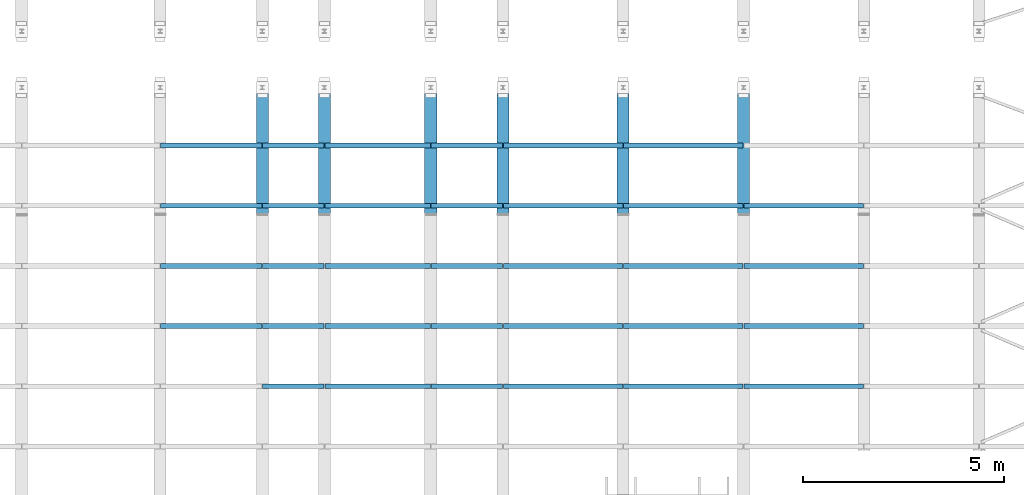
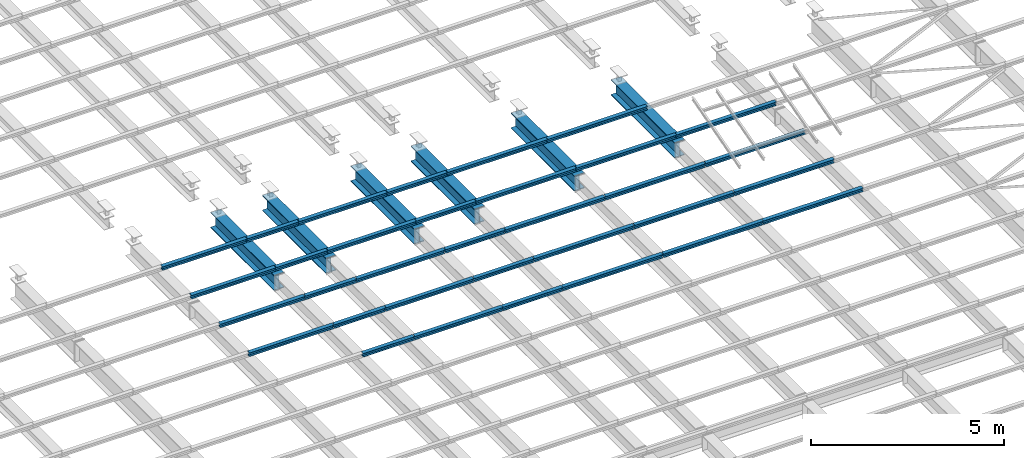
# One storey, part 52 of 139: 39 beams.
"""IFC2X3 building model written with IfcOpenShell, lengths in metres."""

from ifc_helpers import new_model, entity, si_unit, converted_unit, derived_unit, frame, origin, place, context, subcontext, project, spatial, polyline, outline, extrude, material, element, save


model = new_model("IFC2X3")

# Units and contexts
model_context = context("Model", 3, precision=1e-05, world=origin())
body_context = subcontext(model_context, "Body", "Model", "MODEL_VIEW")
ifc_project = project(units=[si_unit("LENGTHUNIT", "METRE"), si_unit("AREAUNIT", "SQUARE_METRE"), si_unit("VOLUMEUNIT", "CUBIC_METRE"), si_unit("MASSUNIT", "GRAM", prefix="KILO"), converted_unit("PLANEANGLEUNIT", "DEGREE", entity("IfcPlaneAngleMeasure", 0.0174532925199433), si_unit("PLANEANGLEUNIT", "RADIAN"), dimensions=[0, 0, 0, 0, 0, 0, 0]), derived_unit("THERMALTRANSMITTANCEUNIT", [(si_unit("POWERUNIT", "WATT"), 1), (si_unit("THERMODYNAMICTEMPERATUREUNIT", "KELVIN"), -1), (si_unit("LENGTHUNIT", "METRE"), -2)]), derived_unit("VOLUMETRICFLOWRATEUNIT", [(si_unit("LENGTHUNIT", "METRE"), 3), (converted_unit("TIMEUNIT", "hour", entity("IfcTimeMeasure", 3600.0), si_unit("TIMEUNIT", "SECOND"), dimensions=[0, 0, 1, 0, 0, 0, 0]), -1), (si_unit("LENGTHUNIT", "METRE"), -1)])], contexts=[model_context])

# Site, building, storey
site_placement = place(None, origin())
site = spatial("IfcSite", under=ifc_project, at=site_placement, Name="TWP_Speiseverteilzentrum SBW VZ II", CompositionType="ELEMENT")
building_placement = place(site_placement, origin())
building = spatial("IfcBuilding", under=site, at=building_placement, Name="Speiseverteilzentrum SBW VZ II", CompositionType="ELEMENT")
storey_placement = place(building_placement, frame((0.0, 0.0, 7.1307)))
storey = spatial("IfcBuildingStorey", under=building, at=storey_placement, Name="Wartung_FFB", CompositionType="ELEMENT", Elevation=7.1307)

# Beams
ifc_material_1 = material(Name="S235")
beam_1_placement = place(storey_placement, frame((28.0500000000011, 51.0500000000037, -0.435), z_axis=(0.0, 0.0, 1.0), x_axis=(-1.0, 0.0, 0.0)))
element("IfcBeam", 1, at=beam_1_placement, inside=storey, material=ifc_material_1, Name="Stahlträger", context=body_context, shape_type="SweptSolid", body=[
    extrude(outline(polyline([(-0.15, 0.245), (-0.15, 0.222), (-0.00599999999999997, 0.222), (-0.006, -0.222), (-0.15, -0.222), (-0.15, -0.245), (0.15, -0.245), (0.15, -0.222), (0.00600000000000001, -0.222), (0.00600000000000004, 0.222), (0.15, 0.222), (0.15, 0.245), (-0.15, 0.245)])), frame((0.0, 0.0, 0.0), z_axis=(0.0, 1.0, 0.0), x_axis=(-1.0, 0.0, 0.0)), (0.0, 0.0, 1.0), 3.29299999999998),
])
ifc_material_2 = material(Name="S235")
beam_2_placement = place(storey_placement, frame((34.0500000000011, 51.0500000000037, -0.435), z_axis=(0.0, 0.0, 1.0), x_axis=(-1.0, 0.0, 0.0)))
element("IfcBeam", 2, at=beam_2_placement, inside=storey, material=ifc_material_2, Name="Stahlträger", context=body_context, shape_type="SweptSolid", body=[
    extrude(outline(polyline([(-0.15, 0.245), (-0.15, 0.222), (-0.00599999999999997, 0.222), (-0.006, -0.222), (-0.15, -0.222), (-0.15, -0.245), (0.15, -0.245), (0.15, -0.222), (0.00600000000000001, -0.222), (0.00600000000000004, 0.222), (0.15, 0.222), (0.15, 0.245), (-0.15, 0.245)])), frame((0.0, 0.0, 0.0), z_axis=(0.0, 1.0, 0.0), x_axis=(-1.0, 0.0, 0.0)), (0.0, 0.0, 1.0), 3.29299999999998),
])
ifc_material_3 = material(Name="S235")
beam_3_placement = place(storey_placement, frame((37.0500000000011, 51.0500000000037, -0.435), z_axis=(0.0, 0.0, 1.0), x_axis=(-1.0, 0.0, 0.0)))
element("IfcBeam", 3, at=beam_3_placement, inside=storey, material=ifc_material_3, Name="Stahlträger", context=body_context, shape_type="SweptSolid", body=[
    extrude(outline(polyline([(-0.15, 0.245), (-0.15, 0.222), (-0.00599999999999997, 0.222), (-0.006, -0.222), (-0.15, -0.222), (-0.15, -0.245), (0.15, -0.245), (0.15, -0.222), (0.00600000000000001, -0.222), (0.00600000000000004, 0.222), (0.15, 0.222), (0.15, 0.245), (-0.15, 0.245)])), frame((0.0, 0.0, 0.0), z_axis=(0.0, 1.0, 0.0), x_axis=(-1.0, 0.0, 0.0)), (0.0, 0.0, 1.0), 3.29299999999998),
])
ifc_material_4 = material(Name="S235")
beam_4_placement = place(storey_placement, frame((40.0500000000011, 51.0500000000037, -0.435), z_axis=(0.0, 0.0, 1.0), x_axis=(-1.0, 0.0, 0.0)))
element("IfcBeam", 4, at=beam_4_placement, inside=storey, material=ifc_material_4, Name="Stahlträger", context=body_context, shape_type="SweptSolid", body=[
    extrude(outline(polyline([(-0.15, 0.245), (-0.15, 0.222), (-0.00599999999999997, 0.222), (-0.006, -0.222), (-0.15, -0.222), (-0.15, -0.245), (0.15, -0.245), (0.15, -0.222), (0.00600000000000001, -0.222), (0.00600000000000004, 0.222), (0.15, 0.222), (0.15, 0.245), (-0.15, 0.245)])), frame((0.0, 0.0, 0.0), z_axis=(0.0, 1.0, 0.0), x_axis=(-1.0, 0.0, 0.0)), (0.0, 0.0, 1.0), 3.29299999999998),
])
ifc_material_5 = material(Name="S235")
beam_5_placement = place(storey_placement, frame((32.2500000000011, 51.0500000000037, -0.435), z_axis=(0.0, 0.0, 1.0), x_axis=(-1.0, 0.0, 0.0)))
element("IfcBeam", 5, at=beam_5_placement, inside=storey, material=ifc_material_5, Name="Stahlträger", context=body_context, shape_type="SweptSolid", body=[
    extrude(outline(polyline([(-0.15, 0.245), (-0.15, 0.222), (-0.00599999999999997, 0.222), (-0.006, -0.222), (-0.15, -0.222), (-0.15, -0.245), (0.15, -0.245), (0.15, -0.222), (0.00600000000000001, -0.222), (0.00600000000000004, 0.222), (0.15, 0.222), (0.15, 0.245), (-0.15, 0.245)])), frame((0.0, 0.0, 0.0), z_axis=(0.0, 1.0, 0.0), x_axis=(-1.0, 0.0, 0.0)), (0.0, 0.0, 1.0), 3.29299999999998),
])
ifc_material_6 = material(Name="S235")
beam_6_placement = place(storey_placement, frame((29.6000000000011, 51.0500000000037, -0.435), z_axis=(0.0, 0.0, 1.0), x_axis=(-1.0, 0.0, 0.0)))
element("IfcBeam", 6, at=beam_6_placement, inside=storey, material=ifc_material_6, Name="Stahlträger", context=body_context, shape_type="SweptSolid", body=[
    extrude(outline(polyline([(-0.15, 0.245), (-0.15, 0.222), (-0.00599999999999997, 0.222), (-0.006, -0.222), (-0.15, -0.222), (-0.15, -0.245), (0.15, -0.245), (0.15, -0.222), (0.00600000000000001, -0.222), (0.00600000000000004, 0.222), (0.15, 0.222), (0.15, 0.245), (-0.15, 0.245)])), frame((0.0, 0.0, 0.0), z_axis=(0.0, 1.0, 0.0), x_axis=(-1.0, 0.0, 0.0)), (0.0, 0.0, 1.0), 3.29299999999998),
])
ifc_material_7 = material(Name="S235")
beam_7_placement = place(storey_placement, frame((34.0600000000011, 49.4500000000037, -0.133), z_axis=(0.0, 0.0, 1.0), x_axis=(0.0, -1.0, 0.0)))
element("IfcBeam", 7, at=beam_7_placement, inside=storey, material=ifc_material_7, Name="Nebenträger", context=body_context, shape_type="SweptSolid", body=[
    extrude(outline(polyline([(-0.06, 0.0570000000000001), (-0.06, 0.0490000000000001), (-0.00249999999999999, 0.0490000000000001), (-0.0025, -0.0489999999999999), (-0.06, -0.0489999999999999), (-0.06, -0.0569999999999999), (0.06, -0.0569999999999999), (0.06, -0.0489999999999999), (0.0025, -0.0489999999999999), (0.00250000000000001, 0.0490000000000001), (0.06, 0.0490000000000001), (0.06, 0.0570000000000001), (-0.06, 0.0570000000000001)])), frame((0.0, 0.0, 0.0), z_axis=(0.0, 1.0, 0.0), x_axis=(-1.0, 0.0, 0.0)), (0.0, 0.0, 1.0), 2.98),
])
ifc_material_8 = material(Name="S235")
beam_8_placement = place(storey_placement, frame((37.0600000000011, 49.4500000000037, -0.133), z_axis=(0.0, 0.0, 1.0), x_axis=(0.0, -1.0, 0.0)))
element("IfcBeam", 8, at=beam_8_placement, inside=storey, material=ifc_material_8, Name="Nebenträger", context=body_context, shape_type="SweptSolid", body=[
    extrude(outline(polyline([(-0.06, 0.0570000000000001), (-0.06, 0.0490000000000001), (-0.00249999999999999, 0.0490000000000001), (-0.0025, -0.0489999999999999), (-0.06, -0.0489999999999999), (-0.06, -0.0569999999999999), (0.06, -0.0569999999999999), (0.06, -0.0489999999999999), (0.0025, -0.0489999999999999), (0.00250000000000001, 0.0490000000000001), (0.06, 0.0490000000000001), (0.06, 0.0570000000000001), (-0.06, 0.0570000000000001)])), frame((0.0, 0.0, 0.0), z_axis=(0.0, 1.0, 0.0), x_axis=(-1.0, 0.0, 0.0)), (0.0, 0.0, 1.0), 2.98),
])
ifc_material_9 = material(Name="S235")
beam_9_placement = place(storey_placement, frame((34.0600000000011, 47.9500000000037, -0.133), z_axis=(0.0, 0.0, 1.0), x_axis=(0.0, -1.0, 0.0)))
element("IfcBeam", 9, at=beam_9_placement, inside=storey, material=ifc_material_9, Name="Nebenträger", context=body_context, shape_type="SweptSolid", body=[
    extrude(outline(polyline([(-0.06, 0.0570000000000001), (-0.06, 0.0490000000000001), (-0.00249999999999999, 0.0490000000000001), (-0.0025, -0.0489999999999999), (-0.06, -0.0489999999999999), (-0.06, -0.0569999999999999), (0.06, -0.0569999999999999), (0.06, -0.0489999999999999), (0.0025, -0.0489999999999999), (0.00250000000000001, 0.0490000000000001), (0.06, 0.0490000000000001), (0.06, 0.0570000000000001), (-0.06, 0.0570000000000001)])), frame((0.0, 0.0, 0.0), z_axis=(0.0, 1.0, 0.0), x_axis=(-1.0, 0.0, 0.0)), (0.0, 0.0, 1.0), 2.98),
])
ifc_material_10 = material(Name="S235")
beam_10_placement = place(storey_placement, frame((37.0600000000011, 47.9500000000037, -0.133), z_axis=(0.0, 0.0, 1.0), x_axis=(0.0, -1.0, 0.0)))
element("IfcBeam", 10, at=beam_10_placement, inside=storey, material=ifc_material_10, Name="Nebenträger", context=body_context, shape_type="SweptSolid", body=[
    extrude(outline(polyline([(-0.06, 0.0570000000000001), (-0.06, 0.0490000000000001), (-0.00249999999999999, 0.0490000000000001), (-0.0025, -0.0489999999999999), (-0.06, -0.0489999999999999), (-0.06, -0.0569999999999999), (0.06, -0.0569999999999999), (0.06, -0.0489999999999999), (0.0025, -0.0489999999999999), (0.00250000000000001, 0.0490000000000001), (0.06, 0.0490000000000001), (0.06, 0.0570000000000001), (-0.06, 0.0570000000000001)])), frame((0.0, 0.0, 0.0), z_axis=(0.0, 1.0, 0.0), x_axis=(-1.0, 0.0, 0.0)), (0.0, 0.0, 1.0), 2.98),
])
ifc_material_11 = material(Name="S235")
beam_11_placement = place(storey_placement, frame((40.0600000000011, 47.9500000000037, -0.133), z_axis=(0.0, 0.0, 1.0), x_axis=(0.0, -1.0, 0.0)))
element("IfcBeam", 11, at=beam_11_placement, inside=storey, material=ifc_material_11, Name="Nebenträger", context=body_context, shape_type="SweptSolid", body=[
    extrude(outline(polyline([(-0.06, 0.0570000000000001), (-0.06, 0.0490000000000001), (-0.00249999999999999, 0.0490000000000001), (-0.0025, -0.0489999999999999), (-0.06, -0.0489999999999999), (-0.06, -0.0569999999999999), (0.06, -0.0569999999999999), (0.06, -0.0489999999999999), (0.0025, -0.0489999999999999), (0.00250000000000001, 0.0490000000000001), (0.06, 0.0490000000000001), (0.06, 0.0570000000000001), (-0.06, 0.0570000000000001)])), frame((0.0, 0.0, 0.0), z_axis=(0.0, 1.0, 0.0), x_axis=(-1.0, 0.0, 0.0)), (0.0, 0.0, 1.0), 2.98),
])
ifc_material_12 = material(Name="S235")
beam_12_placement = place(storey_placement, frame((34.0600000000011, 46.4500000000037, -0.133), z_axis=(0.0, 0.0, 1.0), x_axis=(0.0, -1.0, 0.0)))
element("IfcBeam", 12, at=beam_12_placement, inside=storey, material=ifc_material_12, Name="Nebenträger", context=body_context, shape_type="SweptSolid", body=[
    extrude(outline(polyline([(-0.06, 0.0570000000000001), (-0.06, 0.0490000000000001), (-0.00249999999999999, 0.0490000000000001), (-0.0025, -0.0489999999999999), (-0.06, -0.0489999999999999), (-0.06, -0.0569999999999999), (0.06, -0.0569999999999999), (0.06, -0.0489999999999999), (0.0025, -0.0489999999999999), (0.00250000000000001, 0.0490000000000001), (0.06, 0.0490000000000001), (0.06, 0.0570000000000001), (-0.06, 0.0570000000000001)])), frame((0.0, 0.0, 0.0), z_axis=(0.0, 1.0, 0.0), x_axis=(-1.0, 0.0, 0.0)), (0.0, 0.0, 1.0), 2.98),
])
ifc_material_13 = material(Name="S235")
beam_13_placement = place(storey_placement, frame((37.0600000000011, 46.4500000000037, -0.133), z_axis=(0.0, 0.0, 1.0), x_axis=(0.0, -1.0, 0.0)))
element("IfcBeam", 13, at=beam_13_placement, inside=storey, material=ifc_material_13, Name="Nebenträger", context=body_context, shape_type="SweptSolid", body=[
    extrude(outline(polyline([(-0.06, 0.0570000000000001), (-0.06, 0.0490000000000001), (-0.00249999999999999, 0.0490000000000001), (-0.0025, -0.0489999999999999), (-0.06, -0.0489999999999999), (-0.06, -0.0569999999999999), (0.06, -0.0569999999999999), (0.06, -0.0489999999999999), (0.0025, -0.0489999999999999), (0.00250000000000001, 0.0490000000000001), (0.06, 0.0490000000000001), (0.06, 0.0570000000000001), (-0.06, 0.0570000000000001)])), frame((0.0, 0.0, 0.0), z_axis=(0.0, 1.0, 0.0), x_axis=(-1.0, 0.0, 0.0)), (0.0, 0.0, 1.0), 2.98),
])
ifc_material_14 = material(Name="S235")
beam_14_placement = place(storey_placement, frame((40.0600000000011, 46.4500000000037, -0.133), z_axis=(0.0, 0.0, 1.0), x_axis=(0.0, -1.0, 0.0)))
element("IfcBeam", 14, at=beam_14_placement, inside=storey, material=ifc_material_14, Name="Nebenträger", context=body_context, shape_type="SweptSolid", body=[
    extrude(outline(polyline([(-0.06, 0.0570000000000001), (-0.06, 0.0490000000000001), (-0.00249999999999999, 0.0490000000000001), (-0.0025, -0.0489999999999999), (-0.06, -0.0489999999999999), (-0.06, -0.0569999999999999), (0.06, -0.0569999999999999), (0.06, -0.0489999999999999), (0.0025, -0.0489999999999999), (0.00250000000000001, 0.0490000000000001), (0.06, 0.0490000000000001), (0.06, 0.0570000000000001), (-0.06, 0.0570000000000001)])), frame((0.0, 0.0, 0.0), z_axis=(0.0, 1.0, 0.0), x_axis=(-1.0, 0.0, 0.0)), (0.0, 0.0, 1.0), 2.98),
])
ifc_material_15 = material(Name="S235")
beam_15_placement = place(storey_placement, frame((34.0600000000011, 44.9500000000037, -0.133), z_axis=(0.0, 0.0, 1.0), x_axis=(0.0, -1.0, 0.0)))
element("IfcBeam", 15, at=beam_15_placement, inside=storey, material=ifc_material_15, Name="Nebenträger", context=body_context, shape_type="SweptSolid", body=[
    extrude(outline(polyline([(-0.06, 0.0570000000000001), (-0.06, 0.0490000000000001), (-0.00249999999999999, 0.0490000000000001), (-0.0025, -0.0489999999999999), (-0.06, -0.0489999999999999), (-0.06, -0.0569999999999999), (0.06, -0.0569999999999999), (0.06, -0.0489999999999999), (0.0025, -0.0489999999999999), (0.00250000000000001, 0.0490000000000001), (0.06, 0.0490000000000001), (0.06, 0.0570000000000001), (-0.06, 0.0570000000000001)])), frame((0.0, 0.0, 0.0), z_axis=(0.0, 1.0, 0.0), x_axis=(-1.0, 0.0, 0.0)), (0.0, 0.0, 1.0), 2.98),
])
ifc_material_16 = material(Name="S235")
beam_16_placement = place(storey_placement, frame((37.0600000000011, 44.9500000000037, -0.133), z_axis=(0.0, 0.0, 1.0), x_axis=(0.0, -1.0, 0.0)))
element("IfcBeam", 16, at=beam_16_placement, inside=storey, material=ifc_material_16, Name="Nebenträger", context=body_context, shape_type="SweptSolid", body=[
    extrude(outline(polyline([(-0.06, 0.0570000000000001), (-0.06, 0.0490000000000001), (-0.00249999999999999, 0.0490000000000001), (-0.0025, -0.0489999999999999), (-0.06, -0.0489999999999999), (-0.06, -0.0569999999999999), (0.06, -0.0569999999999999), (0.06, -0.0489999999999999), (0.0025, -0.0489999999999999), (0.00250000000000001, 0.0490000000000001), (0.06, 0.0490000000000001), (0.06, 0.0570000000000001), (-0.06, 0.0570000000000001)])), frame((0.0, 0.0, 0.0), z_axis=(0.0, 1.0, 0.0), x_axis=(-1.0, 0.0, 0.0)), (0.0, 0.0, 1.0), 2.98),
])
ifc_material_17 = material(Name="S235")
beam_17_placement = place(storey_placement, frame((40.0600000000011, 44.9500000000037, -0.133), z_axis=(0.0, 0.0, 1.0), x_axis=(0.0, -1.0, 0.0)))
element("IfcBeam", 17, at=beam_17_placement, inside=storey, material=ifc_material_17, Name="Nebenträger", context=body_context, shape_type="SweptSolid", body=[
    extrude(outline(polyline([(-0.06, 0.0570000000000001), (-0.06, 0.0490000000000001), (-0.00249999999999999, 0.0490000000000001), (-0.0025, -0.0489999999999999), (-0.06, -0.0489999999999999), (-0.06, -0.0569999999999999), (0.06, -0.0569999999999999), (0.06, -0.0489999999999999), (0.0025, -0.0489999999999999), (0.00250000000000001, 0.0490000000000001), (0.06, 0.0490000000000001), (0.06, 0.0570000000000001), (-0.06, 0.0570000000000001)])), frame((0.0, 0.0, 0.0), z_axis=(0.0, 1.0, 0.0), x_axis=(-1.0, 0.0, 0.0)), (0.0, 0.0, 1.0), 2.98),
])
ifc_material_18 = material(Name="S235")
beam_18_placement = place(storey_placement, frame((34.0600000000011, 43.4500000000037, -0.133), z_axis=(0.0, 0.0, 1.0), x_axis=(0.0, -1.0, 0.0)))
element("IfcBeam", 18, at=beam_18_placement, inside=storey, material=ifc_material_18, Name="Nebenträger", context=body_context, shape_type="SweptSolid", body=[
    extrude(outline(polyline([(-0.06, 0.0570000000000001), (-0.06, 0.0490000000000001), (-0.00249999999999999, 0.0490000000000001), (-0.0025, -0.0489999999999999), (-0.06, -0.0489999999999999), (-0.06, -0.0569999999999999), (0.06, -0.0569999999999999), (0.06, -0.0489999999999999), (0.0025, -0.0489999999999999), (0.00250000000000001, 0.0490000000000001), (0.06, 0.0490000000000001), (0.06, 0.0570000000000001), (-0.06, 0.0570000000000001)])), frame((0.0, 0.0, 0.0), z_axis=(0.0, 1.0, 0.0), x_axis=(-1.0, 0.0, 0.0)), (0.0, 0.0, 1.0), 2.98),
])
ifc_material_19 = material(Name="S235")
beam_19_placement = place(storey_placement, frame((37.0600000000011, 43.4500000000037, -0.133), z_axis=(0.0, 0.0, 1.0), x_axis=(0.0, -1.0, 0.0)))
element("IfcBeam", 19, at=beam_19_placement, inside=storey, material=ifc_material_19, Name="Nebenträger", context=body_context, shape_type="SweptSolid", body=[
    extrude(outline(polyline([(-0.06, 0.0570000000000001), (-0.06, 0.0490000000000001), (-0.00249999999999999, 0.0490000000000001), (-0.0025, -0.0489999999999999), (-0.06, -0.0489999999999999), (-0.06, -0.0569999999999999), (0.06, -0.0569999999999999), (0.06, -0.0489999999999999), (0.0025, -0.0489999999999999), (0.00250000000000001, 0.0490000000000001), (0.06, 0.0490000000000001), (0.06, 0.0570000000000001), (-0.06, 0.0570000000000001)])), frame((0.0, 0.0, 0.0), z_axis=(0.0, 1.0, 0.0), x_axis=(-1.0, 0.0, 0.0)), (0.0, 0.0, 1.0), 2.98),
])
ifc_material_20 = material(Name="S235")
beam_20_placement = place(storey_placement, frame((40.0600000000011, 43.4500000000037, -0.133), z_axis=(0.0, 0.0, 1.0), x_axis=(0.0, -1.0, 0.0)))
element("IfcBeam", 20, at=beam_20_placement, inside=storey, material=ifc_material_20, Name="Nebenträger", context=body_context, shape_type="SweptSolid", body=[
    extrude(outline(polyline([(-0.06, 0.0570000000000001), (-0.06, 0.0490000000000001), (-0.00249999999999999, 0.0490000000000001), (-0.0025, -0.0489999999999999), (-0.06, -0.0489999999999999), (-0.06, -0.0569999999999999), (0.06, -0.0569999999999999), (0.06, -0.0489999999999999), (0.0025, -0.0489999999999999), (0.00250000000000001, 0.0490000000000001), (0.06, 0.0490000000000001), (0.06, 0.0570000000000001), (-0.06, 0.0570000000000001)])), frame((0.0, 0.0, 0.0), z_axis=(0.0, 1.0, 0.0), x_axis=(-1.0, 0.0, 0.0)), (0.0, 0.0, 1.0), 2.98),
])
ifc_material_21 = material(Name="S235")
beam_21_placement = place(storey_placement, frame((32.2600000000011, 49.4500000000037, -0.133), z_axis=(0.0, 0.0, 1.0), x_axis=(0.0, -1.0, 0.0)))
element("IfcBeam", 21, at=beam_21_placement, inside=storey, material=ifc_material_21, Name="Nebenträger", context=body_context, shape_type="SweptSolid", body=[
    extrude(outline(polyline([(-0.06, 0.0570000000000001), (-0.06, 0.0490000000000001), (-0.00249999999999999, 0.0490000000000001), (-0.0025, -0.0489999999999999), (-0.06, -0.0489999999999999), (-0.06, -0.0569999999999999), (0.06, -0.0569999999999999), (0.06, -0.0489999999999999), (0.0025, -0.0489999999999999), (0.00250000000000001, 0.0490000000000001), (0.06, 0.0490000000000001), (0.06, 0.0570000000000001), (-0.06, 0.0570000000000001)])), frame((0.0, 0.0, 0.0), z_axis=(0.0, 1.0, 0.0), x_axis=(-1.0, 0.0, 0.0)), (0.0, 0.0, 1.0), 1.78),
])
ifc_material_22 = material(Name="S235")
beam_22_placement = place(storey_placement, frame((32.2600000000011, 47.9500000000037, -0.133), z_axis=(0.0, 0.0, 1.0), x_axis=(0.0, -1.0, 0.0)))
element("IfcBeam", 22, at=beam_22_placement, inside=storey, material=ifc_material_22, Name="Nebenträger", context=body_context, shape_type="SweptSolid", body=[
    extrude(outline(polyline([(-0.06, 0.0570000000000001), (-0.06, 0.0490000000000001), (-0.00249999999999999, 0.0490000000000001), (-0.0025, -0.0489999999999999), (-0.06, -0.0489999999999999), (-0.06, -0.0569999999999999), (0.06, -0.0569999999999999), (0.06, -0.0489999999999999), (0.0025, -0.0489999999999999), (0.00250000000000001, 0.0490000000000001), (0.06, 0.0490000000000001), (0.06, 0.0570000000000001), (-0.06, 0.0570000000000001)])), frame((0.0, 0.0, 0.0), z_axis=(0.0, 1.0, 0.0), x_axis=(-1.0, 0.0, 0.0)), (0.0, 0.0, 1.0), 1.78),
])
ifc_material_23 = material(Name="S235")
beam_23_placement = place(storey_placement, frame((32.2600000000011, 46.4500000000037, -0.133), z_axis=(0.0, 0.0, 1.0), x_axis=(0.0, -1.0, 0.0)))
element("IfcBeam", 23, at=beam_23_placement, inside=storey, material=ifc_material_23, Name="Nebenträger", context=body_context, shape_type="SweptSolid", body=[
    extrude(outline(polyline([(-0.06, 0.0570000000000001), (-0.06, 0.0490000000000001), (-0.00249999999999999, 0.0490000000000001), (-0.0025, -0.0489999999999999), (-0.06, -0.0489999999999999), (-0.06, -0.0569999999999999), (0.06, -0.0569999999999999), (0.06, -0.0489999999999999), (0.0025, -0.0489999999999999), (0.00250000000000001, 0.0490000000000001), (0.06, 0.0490000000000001), (0.06, 0.0570000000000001), (-0.06, 0.0570000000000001)])), frame((0.0, 0.0, 0.0), z_axis=(0.0, 1.0, 0.0), x_axis=(-1.0, 0.0, 0.0)), (0.0, 0.0, 1.0), 1.78),
])
ifc_material_24 = material(Name="S235")
beam_24_placement = place(storey_placement, frame((32.2600000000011, 44.9500000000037, -0.133), z_axis=(0.0, 0.0, 1.0), x_axis=(0.0, -1.0, 0.0)))
element("IfcBeam", 24, at=beam_24_placement, inside=storey, material=ifc_material_24, Name="Nebenträger", context=body_context, shape_type="SweptSolid", body=[
    extrude(outline(polyline([(-0.06, 0.0570000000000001), (-0.06, 0.0490000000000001), (-0.00249999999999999, 0.0490000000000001), (-0.0025, -0.0489999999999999), (-0.06, -0.0489999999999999), (-0.06, -0.0569999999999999), (0.06, -0.0569999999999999), (0.06, -0.0489999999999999), (0.0025, -0.0489999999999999), (0.00250000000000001, 0.0490000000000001), (0.06, 0.0490000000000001), (0.06, 0.0570000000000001), (-0.06, 0.0570000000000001)])), frame((0.0, 0.0, 0.0), z_axis=(0.0, 1.0, 0.0), x_axis=(-1.0, 0.0, 0.0)), (0.0, 0.0, 1.0), 1.78),
])
ifc_material_25 = material(Name="S235")
beam_25_placement = place(storey_placement, frame((32.2600000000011, 43.4500000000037, -0.133), z_axis=(0.0, 0.0, 1.0), x_axis=(0.0, -1.0, 0.0)))
element("IfcBeam", 25, at=beam_25_placement, inside=storey, material=ifc_material_25, Name="Nebenträger", context=body_context, shape_type="SweptSolid", body=[
    extrude(outline(polyline([(-0.06, 0.0570000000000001), (-0.06, 0.0490000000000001), (-0.00249999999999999, 0.0490000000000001), (-0.0025, -0.0489999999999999), (-0.06, -0.0489999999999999), (-0.06, -0.0569999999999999), (0.06, -0.0569999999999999), (0.06, -0.0489999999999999), (0.0025, -0.0489999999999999), (0.00250000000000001, 0.0490000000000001), (0.06, 0.0490000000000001), (0.06, 0.0570000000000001), (-0.06, 0.0570000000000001)])), frame((0.0, 0.0, 0.0), z_axis=(0.0, 1.0, 0.0), x_axis=(-1.0, 0.0, 0.0)), (0.0, 0.0, 1.0), 1.78),
])
ifc_material_26 = material(Name="S235")
beam_26_placement = place(storey_placement, frame((28.0600000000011, 49.4500000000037, -0.133), z_axis=(0.0, 0.0, 1.0), x_axis=(0.0, -1.0, 0.0)))
element("IfcBeam", 26, at=beam_26_placement, inside=storey, material=ifc_material_26, Name="Nebenträger", context=body_context, shape_type="SweptSolid", body=[
    extrude(outline(polyline([(-0.06, 0.0570000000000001), (-0.06, 0.0490000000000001), (-0.00249999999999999, 0.0490000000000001), (-0.0025, -0.0489999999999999), (-0.06, -0.0489999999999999), (-0.06, -0.0569999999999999), (0.06, -0.0569999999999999), (0.06, -0.0489999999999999), (0.0025, -0.0489999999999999), (0.00250000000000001, 0.0490000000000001), (0.06, 0.0490000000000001), (0.06, 0.0570000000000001), (-0.06, 0.0570000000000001)])), frame((0.0, 0.0, 0.0), z_axis=(0.0, 1.0, 0.0), x_axis=(-1.0, 0.0, 0.0)), (0.0, 0.0, 1.0), 1.52999999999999),
])
ifc_material_27 = material(Name="S235")
beam_27_placement = place(storey_placement, frame((28.0600000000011, 47.9500000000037, -0.133), z_axis=(0.0, 0.0, 1.0), x_axis=(0.0, -1.0, 0.0)))
element("IfcBeam", 27, at=beam_27_placement, inside=storey, material=ifc_material_27, Name="Nebenträger", context=body_context, shape_type="SweptSolid", body=[
    extrude(outline(polyline([(-0.06, 0.0570000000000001), (-0.06, 0.0490000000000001), (-0.00249999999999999, 0.0490000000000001), (-0.0025, -0.0489999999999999), (-0.06, -0.0489999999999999), (-0.06, -0.0569999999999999), (0.06, -0.0569999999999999), (0.06, -0.0489999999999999), (0.0025, -0.0489999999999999), (0.00250000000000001, 0.0490000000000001), (0.06, 0.0490000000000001), (0.06, 0.0570000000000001), (-0.06, 0.0570000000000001)])), frame((0.0, 0.0, 0.0), z_axis=(0.0, 1.0, 0.0), x_axis=(-1.0, 0.0, 0.0)), (0.0, 0.0, 1.0), 1.52999999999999),
])
ifc_material_28 = material(Name="S235")
beam_28_placement = place(storey_placement, frame((28.0600000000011, 46.4500000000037, -0.133), z_axis=(0.0, 0.0, 1.0), x_axis=(0.0, -1.0, 0.0)))
element("IfcBeam", 28, at=beam_28_placement, inside=storey, material=ifc_material_28, Name="Nebenträger", context=body_context, shape_type="SweptSolid", body=[
    extrude(outline(polyline([(-0.06, 0.0570000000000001), (-0.06, 0.0490000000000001), (-0.00249999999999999, 0.0490000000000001), (-0.0025, -0.0489999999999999), (-0.06, -0.0489999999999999), (-0.06, -0.0569999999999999), (0.06, -0.0569999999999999), (0.06, -0.0489999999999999), (0.0025, -0.0489999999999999), (0.00250000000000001, 0.0490000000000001), (0.06, 0.0490000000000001), (0.06, 0.0570000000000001), (-0.06, 0.0570000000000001)])), frame((0.0, 0.0, 0.0), z_axis=(0.0, 1.0, 0.0), x_axis=(-1.0, 0.0, 0.0)), (0.0, 0.0, 1.0), 1.52999999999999),
])
ifc_material_29 = material(Name="S235")
beam_29_placement = place(storey_placement, frame((28.0600000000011, 44.9500000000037, -0.133), z_axis=(0.0, 0.0, 1.0), x_axis=(0.0, -1.0, 0.0)))
element("IfcBeam", 29, at=beam_29_placement, inside=storey, material=ifc_material_29, Name="Nebenträger", context=body_context, shape_type="SweptSolid", body=[
    extrude(outline(polyline([(-0.06, 0.0570000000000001), (-0.06, 0.0490000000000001), (-0.00249999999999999, 0.0490000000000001), (-0.0025, -0.0489999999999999), (-0.06, -0.0489999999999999), (-0.06, -0.0569999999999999), (0.06, -0.0569999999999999), (0.06, -0.0489999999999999), (0.0025, -0.0489999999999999), (0.00250000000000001, 0.0490000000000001), (0.06, 0.0490000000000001), (0.06, 0.0570000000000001), (-0.06, 0.0570000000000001)])), frame((0.0, 0.0, 0.0), z_axis=(0.0, 1.0, 0.0), x_axis=(-1.0, 0.0, 0.0)), (0.0, 0.0, 1.0), 1.52999999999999),
])
ifc_material_30 = material(Name="S235")
beam_30_placement = place(storey_placement, frame((28.0600000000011, 43.4500000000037, -0.133), z_axis=(0.0, 0.0, 1.0), x_axis=(0.0, -1.0, 0.0)))
element("IfcBeam", 30, at=beam_30_placement, inside=storey, material=ifc_material_30, Name="Nebenträger", context=body_context, shape_type="SweptSolid", body=[
    extrude(outline(polyline([(-0.06, 0.0570000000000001), (-0.06, 0.0490000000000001), (-0.00249999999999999, 0.0490000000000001), (-0.0025, -0.0489999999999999), (-0.06, -0.0489999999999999), (-0.06, -0.0569999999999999), (0.06, -0.0569999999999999), (0.06, -0.0489999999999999), (0.0025, -0.0489999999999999), (0.00250000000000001, 0.0490000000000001), (0.06, 0.0490000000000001), (0.06, 0.0570000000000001), (-0.06, 0.0570000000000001)])), frame((0.0, 0.0, 0.0), z_axis=(0.0, 1.0, 0.0), x_axis=(-1.0, 0.0, 0.0)), (0.0, 0.0, 1.0), 1.52999999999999),
])
ifc_material_31 = material(Name="S235")
beam_31_placement = place(storey_placement, frame((29.6100000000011, 49.4500000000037, -0.133), z_axis=(0.0, 0.0, 1.0), x_axis=(0.0, -1.0, 0.0)))
element("IfcBeam", 31, at=beam_31_placement, inside=storey, material=ifc_material_31, Name="Nebenträger", context=body_context, shape_type="SweptSolid", body=[
    extrude(outline(polyline([(-0.06, 0.0570000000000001), (-0.06, 0.0490000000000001), (-0.00249999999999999, 0.0490000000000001), (-0.0025, -0.0489999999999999), (-0.06, -0.0489999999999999), (-0.06, -0.0569999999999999), (0.06, -0.0569999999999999), (0.06, -0.0489999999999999), (0.0025, -0.0489999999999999), (0.00250000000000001, 0.0490000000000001), (0.06, 0.0490000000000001), (0.06, 0.0570000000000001), (-0.06, 0.0570000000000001)])), frame((0.0, 0.0, 0.0), z_axis=(0.0, 1.0, 0.0), x_axis=(-1.0, 0.0, 0.0)), (0.0, 0.0, 1.0), 2.63000000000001),
])
ifc_material_32 = material(Name="S235")
beam_32_placement = place(storey_placement, frame((29.6100000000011, 47.9500000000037, -0.133), z_axis=(0.0, 0.0, 1.0), x_axis=(0.0, -1.0, 0.0)))
element("IfcBeam", 32, at=beam_32_placement, inside=storey, material=ifc_material_32, Name="Nebenträger", context=body_context, shape_type="SweptSolid", body=[
    extrude(outline(polyline([(-0.06, 0.0570000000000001), (-0.06, 0.0490000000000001), (-0.00249999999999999, 0.0490000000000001), (-0.0025, -0.0489999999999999), (-0.06, -0.0489999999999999), (-0.06, -0.0569999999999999), (0.06, -0.0569999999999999), (0.06, -0.0489999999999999), (0.0025, -0.0489999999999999), (0.00250000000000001, 0.0490000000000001), (0.06, 0.0490000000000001), (0.06, 0.0570000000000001), (-0.06, 0.0570000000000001)])), frame((0.0, 0.0, 0.0), z_axis=(0.0, 1.0, 0.0), x_axis=(-1.0, 0.0, 0.0)), (0.0, 0.0, 1.0), 2.63000000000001),
])
ifc_material_33 = material(Name="S235")
beam_33_placement = place(storey_placement, frame((29.6100000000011, 46.4500000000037, -0.133), z_axis=(0.0, 0.0, 1.0), x_axis=(0.0, -1.0, 0.0)))
element("IfcBeam", 33, at=beam_33_placement, inside=storey, material=ifc_material_33, Name="Nebenträger", context=body_context, shape_type="SweptSolid", body=[
    extrude(outline(polyline([(-0.06, 0.0570000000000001), (-0.06, 0.0490000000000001), (-0.00249999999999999, 0.0490000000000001), (-0.0025, -0.0489999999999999), (-0.06, -0.0489999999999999), (-0.06, -0.0569999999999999), (0.06, -0.0569999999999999), (0.06, -0.0489999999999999), (0.0025, -0.0489999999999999), (0.00250000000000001, 0.0490000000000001), (0.06, 0.0490000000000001), (0.06, 0.0570000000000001), (-0.06, 0.0570000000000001)])), frame((0.0, 0.0, 0.0), z_axis=(0.0, 1.0, 0.0), x_axis=(-1.0, 0.0, 0.0)), (0.0, 0.0, 1.0), 2.63000000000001),
])
ifc_material_34 = material(Name="S235")
beam_34_placement = place(storey_placement, frame((29.6100000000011, 44.9500000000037, -0.133), z_axis=(0.0, 0.0, 1.0), x_axis=(0.0, -1.0, 0.0)))
element("IfcBeam", 34, at=beam_34_placement, inside=storey, material=ifc_material_34, Name="Nebenträger", context=body_context, shape_type="SweptSolid", body=[
    extrude(outline(polyline([(-0.06, 0.0570000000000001), (-0.06, 0.0490000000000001), (-0.00249999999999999, 0.0490000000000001), (-0.0025, -0.0489999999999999), (-0.06, -0.0489999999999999), (-0.06, -0.0569999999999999), (0.06, -0.0569999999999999), (0.06, -0.0489999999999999), (0.0025, -0.0489999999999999), (0.00250000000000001, 0.0490000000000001), (0.06, 0.0490000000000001), (0.06, 0.0570000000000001), (-0.06, 0.0570000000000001)])), frame((0.0, 0.0, 0.0), z_axis=(0.0, 1.0, 0.0), x_axis=(-1.0, 0.0, 0.0)), (0.0, 0.0, 1.0), 2.63000000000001),
])
ifc_material_35 = material(Name="S235")
beam_35_placement = place(storey_placement, frame((29.6100000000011, 43.4500000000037, -0.133), z_axis=(0.0, 0.0, 1.0), x_axis=(0.0, -1.0, 0.0)))
element("IfcBeam", 35, at=beam_35_placement, inside=storey, material=ifc_material_35, Name="Nebenträger", context=body_context, shape_type="SweptSolid", body=[
    extrude(outline(polyline([(-0.06, 0.0570000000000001), (-0.06, 0.0490000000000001), (-0.00249999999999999, 0.0490000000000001), (-0.0025, -0.0489999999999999), (-0.06, -0.0489999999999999), (-0.06, -0.0569999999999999), (0.06, -0.0569999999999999), (0.06, -0.0489999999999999), (0.0025, -0.0489999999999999), (0.00250000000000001, 0.0490000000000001), (0.06, 0.0490000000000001), (0.06, 0.0570000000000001), (-0.06, 0.0570000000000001)])), frame((0.0, 0.0, 0.0), z_axis=(0.0, 1.0, 0.0), x_axis=(-1.0, 0.0, 0.0)), (0.0, 0.0, 1.0), 2.63000000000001),
])
ifc_material_36 = material(Name="S235")
beam_36_placement = place(storey_placement, frame((25.5125522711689, 49.4500000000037, -0.133), z_axis=(0.0, 0.0, 1.0), x_axis=(0.0, -1.0, 0.0)))
element("IfcBeam", 36, at=beam_36_placement, inside=storey, material=ifc_material_36, Name="Nebenträger", context=body_context, shape_type="SweptSolid", body=[
    extrude(outline(polyline([(-0.06, 0.0570000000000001), (-0.06, 0.0490000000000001), (-0.00249999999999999, 0.0490000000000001), (-0.0025, -0.0489999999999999), (-0.06, -0.0489999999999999), (-0.06, -0.0569999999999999), (0.06, -0.0569999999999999), (0.06, -0.0489999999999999), (0.0025, -0.0489999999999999), (0.00250000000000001, 0.0490000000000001), (0.06, 0.0490000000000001), (0.06, 0.0570000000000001), (-0.06, 0.0570000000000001)])), frame((0.0, 0.0, 0.0), z_axis=(0.0, 1.0, 0.0), x_axis=(-1.0, 0.0, 0.0)), (0.0, 0.0, 1.0), 2.52744772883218),
])
ifc_material_37 = material(Name="S235")
beam_37_placement = place(storey_placement, frame((25.5125522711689, 47.9500000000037, -0.133), z_axis=(0.0, 0.0, 1.0), x_axis=(0.0, -1.0, 0.0)))
element("IfcBeam", 37, at=beam_37_placement, inside=storey, material=ifc_material_37, Name="Nebenträger", context=body_context, shape_type="SweptSolid", body=[
    extrude(outline(polyline([(-0.06, 0.0570000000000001), (-0.06, 0.0490000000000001), (-0.00249999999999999, 0.0490000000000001), (-0.0025, -0.0489999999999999), (-0.06, -0.0489999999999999), (-0.06, -0.0569999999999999), (0.06, -0.0569999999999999), (0.06, -0.0489999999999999), (0.0025, -0.0489999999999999), (0.00250000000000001, 0.0490000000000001), (0.06, 0.0490000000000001), (0.06, 0.0570000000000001), (-0.06, 0.0570000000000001)])), frame((0.0, 0.0, 0.0), z_axis=(0.0, 1.0, 0.0), x_axis=(-1.0, 0.0, 0.0)), (0.0, 0.0, 1.0), 2.52744772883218),
])
ifc_material_38 = material(Name="S235")
beam_38_placement = place(storey_placement, frame((25.5125522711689, 46.4500000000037, -0.133), z_axis=(0.0, 0.0, 1.0), x_axis=(0.0, -1.0, 0.0)))
element("IfcBeam", 38, at=beam_38_placement, inside=storey, material=ifc_material_38, Name="Nebenträger", context=body_context, shape_type="SweptSolid", body=[
    extrude(outline(polyline([(-0.06, 0.0570000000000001), (-0.06, 0.0490000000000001), (-0.00249999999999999, 0.0490000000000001), (-0.0025, -0.0489999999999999), (-0.06, -0.0489999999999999), (-0.06, -0.0569999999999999), (0.06, -0.0569999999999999), (0.06, -0.0489999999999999), (0.0025, -0.0489999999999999), (0.00250000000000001, 0.0490000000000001), (0.06, 0.0490000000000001), (0.06, 0.0570000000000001), (-0.06, 0.0570000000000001)])), frame((0.0, 0.0, 0.0), z_axis=(0.0, 1.0, 0.0), x_axis=(-1.0, 0.0, 0.0)), (0.0, 0.0, 1.0), 2.52744772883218),
])
ifc_material_39 = material(Name="S235")
beam_39_placement = place(storey_placement, frame((25.5125522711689, 44.9500000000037, -0.133), z_axis=(0.0, 0.0, 1.0), x_axis=(0.0, -1.0, 0.0)))
element("IfcBeam", 39, at=beam_39_placement, inside=storey, material=ifc_material_39, Name="Nebenträger", context=body_context, shape_type="SweptSolid", body=[
    extrude(outline(polyline([(-0.06, 0.0570000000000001), (-0.06, 0.0490000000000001), (-0.00249999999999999, 0.0490000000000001), (-0.0025, -0.0489999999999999), (-0.06, -0.0489999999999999), (-0.06, -0.0569999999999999), (0.06, -0.0569999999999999), (0.06, -0.0489999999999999), (0.0025, -0.0489999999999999), (0.00250000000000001, 0.0490000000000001), (0.06, 0.0490000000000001), (0.06, 0.0570000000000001), (-0.06, 0.0570000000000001)])), frame((0.0, 0.0, 0.0), z_axis=(0.0, 1.0, 0.0), x_axis=(-1.0, 0.0, 0.0)), (0.0, 0.0, 1.0), 2.52744772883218),
])

save(model, "model.ifc")
